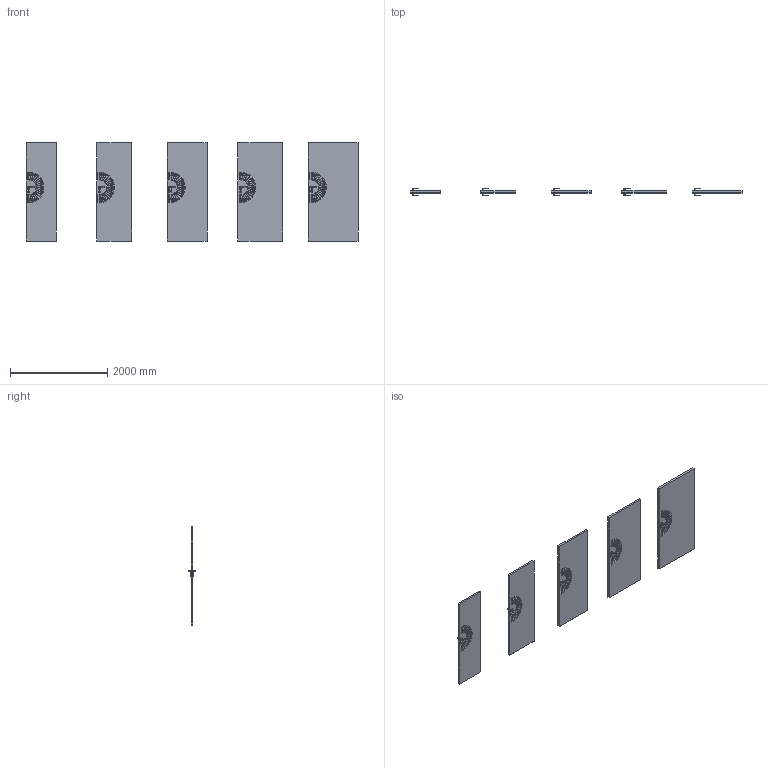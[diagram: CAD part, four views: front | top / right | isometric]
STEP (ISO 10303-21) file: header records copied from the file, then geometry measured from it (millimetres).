
FILE_DESCRIPTION(/* description */ (''),/* implementation_level */ '2;1');
FILE_NAME(/* name */ '049840_A_2-Skrzydło ART DECO model 2_ polska norma _PN__ bezprzylgowe..stp',/* time_stamp */ '2024-09-02T08:25:54+02:00',/* author */ (''),/* organization */ (''),/* preprocessor_version */ 'ST-DEVELOPER v16',/* originating_system */ 'SIEMENS PLM Software NX 11.0',/* authorisation */ '');
FILE_SCHEMA (('AUTOMOTIVE_DESIGN { 1 0 10303 214 3 1 1 1 }'));
Products named in the file (1): bkni1684CEC86b3r
Bounding box: 6818 x 153.13 x 2017 mm (x, y, z)
Volume: 324023552.8 mm3; surface area: 17903038.4 mm2
Topology: 25 solids, 25 shells, 2280 faces, 5690 edges, 3360 vertices
Faces by surface type: plane 780, cylinder 780, torus 280, bspline 160, sphere 140, cone 140
Entity records: 72269 total; most frequent: CARTESIAN_POINT 18211, DIRECTION 11772, ORIENTED_EDGE 11100, EDGE_CURVE 5550, AXIS2_PLACEMENT_3D 4401, VERTEX_POINT 3360, LINE 2970, VECTOR 2970
